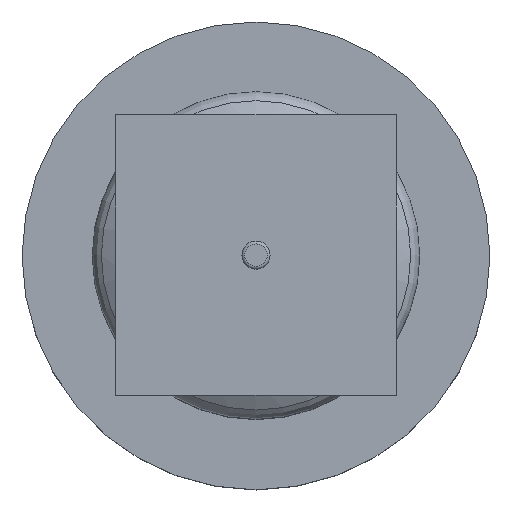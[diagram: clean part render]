
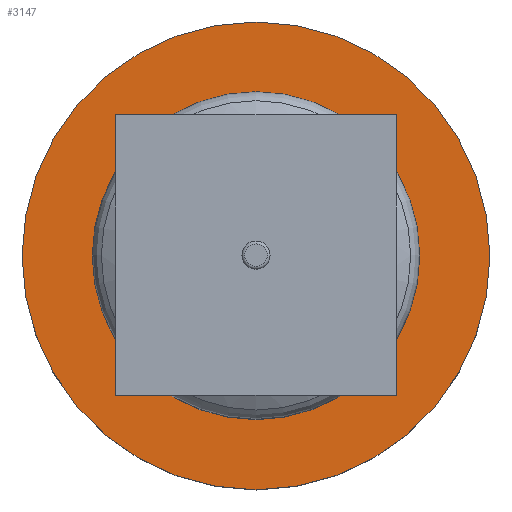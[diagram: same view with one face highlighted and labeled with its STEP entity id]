
A CAD part, top view. The second image highlights one B-rep face of the part: STEP entity #3147.
In plain terms, the highlighted planar face has unit normal (0, 0, 1).
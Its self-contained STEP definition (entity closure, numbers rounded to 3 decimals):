
#809 = CARTESIAN_POINT ( 'NONE',  ( 0., 0., 27. ) ) ;
#1683 = CARTESIAN_POINT ( 'NONE',  ( -25., 0., 27. ) ) ;
#2662 = CARTESIAN_POINT ( 'NONE',  ( -17.5, 0., 27. ) ) ;
#2697 = DIRECTION ( 'NONE',  ( 0., 0., -1. ) ) ;
#2721 = VERTEX_POINT ( 'NONE', #2662 ) ;
#2825 = DIRECTION ( 'NONE',  ( -1., 0., 0. ) ) ;
#3147 = ADVANCED_FACE ( 'NONE', ( #6486, #4293 ), #4339, .F. ) ;
#3228 = DIRECTION ( 'NONE',  ( -1., 0., 0. ) ) ;
#3526 = AXIS2_PLACEMENT_3D ( 'NONE', #4694, #2697, #3228 ) ;
#3793 = CARTESIAN_POINT ( 'NONE',  ( 0., 0., 27. ) ) ;
#3812 = ORIENTED_EDGE ( 'NONE', *, *, #5867, .T. ) ;
#3972 = DIRECTION ( 'NONE',  ( -1., 0., 0. ) ) ;
#4016 = CIRCLE ( 'NONE', #4404, 17.5 ) ;
#4123 = ORIENTED_EDGE ( 'NONE', *, *, #4783, .F. ) ;
#4229 = AXIS2_PLACEMENT_3D ( 'NONE', #809, #4834, #2825 ) ;
#4293 = FACE_OUTER_BOUND ( 'NONE', #5385, .T. ) ;
#4339 = PLANE ( 'NONE',  #4229 ) ;
#4404 = AXIS2_PLACEMENT_3D ( 'NONE', #3793, #5330, #3972 ) ;
#4694 = CARTESIAN_POINT ( 'NONE',  ( 0., 0., 27. ) ) ;
#4730 = CIRCLE ( 'NONE', #3526, 25. ) ;
#4783 = EDGE_CURVE ( 'NONE', #6220, #6220, #4730, .T. ) ;
#4834 = DIRECTION ( 'NONE',  ( 0., 0., -1. ) ) ;
#5132 = EDGE_LOOP ( 'NONE', ( #3812 ) ) ;
#5330 = DIRECTION ( 'NONE',  ( 0., 0., -1. ) ) ;
#5385 = EDGE_LOOP ( 'NONE', ( #4123 ) ) ;
#5867 = EDGE_CURVE ( 'NONE', #2721, #2721, #4016, .T. ) ;
#6220 = VERTEX_POINT ( 'NONE', #1683 ) ;
#6486 = FACE_BOUND ( 'NONE', #5132, .T. ) ;
